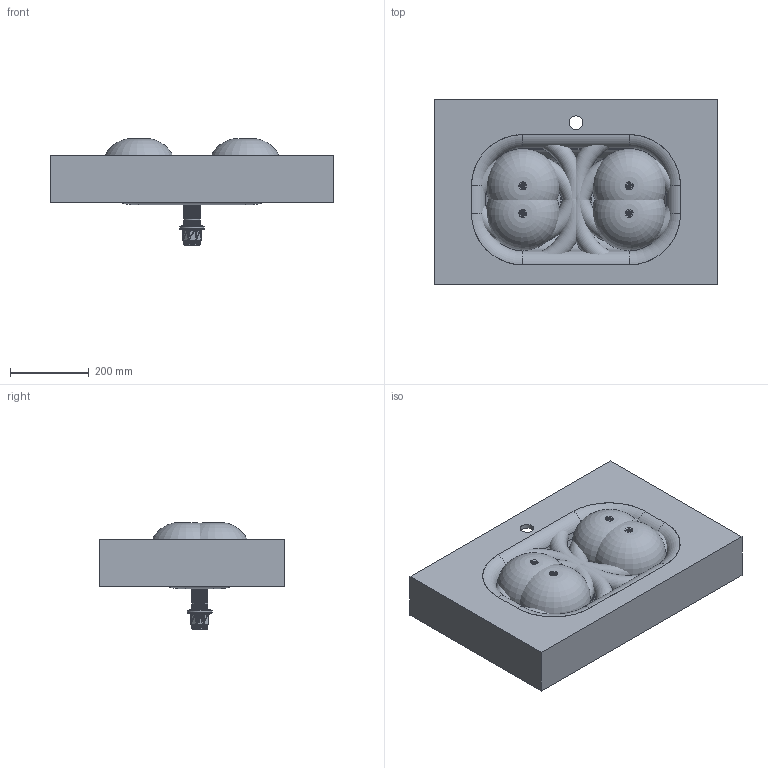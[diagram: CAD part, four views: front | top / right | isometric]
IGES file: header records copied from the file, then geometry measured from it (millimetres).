
Start section: Data from Parasolid IGES Translator 19.0.9, Copyright(c) 2006 Siemens PL M Software. All Rights Reserved.
Global section: file name: noorth-top-H 12 D 47,3 W 72_4797.igs; native system: By Siemens PLM Incorporated; preprocessor: XPlus GENERIC/IGES 19.0.9; author: Noname; organization: Noname; date: 20200603.112531; units: metre
Bounding box: 720 x 472 x 271.41 mm (x, y, z)
Volume: 20415421.3 mm3; surface area: 2286490.1 mm2
Topology: 2 solids, 2 shells, 11699 faces, 35056 edges, 34971 vertices
Faces by surface type: extrusion 11618, plane 28, cylinder 26, torus 18, cone 9
Full cylindrical faces by diameter (mm): 34.9 x1, 46 x1
